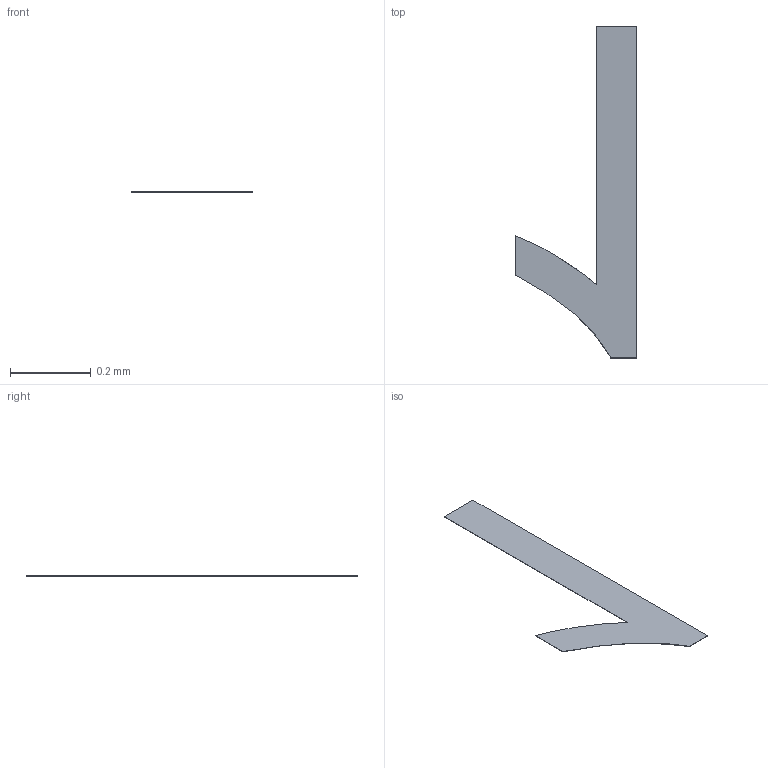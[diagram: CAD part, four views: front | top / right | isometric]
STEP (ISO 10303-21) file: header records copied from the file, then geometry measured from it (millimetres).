
FILE_DESCRIPTION(/* description */ ('STEP AP242 Edition 2','CAx-IF Rec.Pracs.---Representation and Presentation of Product Manufacturing Information (PMI)---4.0---2014-10-13','CAx-IF Rec.Pracs.---3D Tessellated Geometry---0.4---2014-09-14','2;1','CAx-IF Rec.Pracs.---User Defined Attributes---1.5---2016-08-15'),/* implementation_level */ '2;1');
FILE_NAME(/* name */ 'Drone Layout - Surface 360',/* time_stamp */ '2026-10-04T22:22:57Z',/* author */ (''),/* organization */ (''),/* preprocessor_version */ 'ST-DEVELOPER v20',/* originating_system */ 'ONSHAPE BY PTC INC, 1.221',/* authorisation */ ' ');
FILE_SCHEMA (('AP242_MANAGED_MODEL_BASED_3D_ENGINEERING_MIM_LF { 1 0 10303 442 3 1 4 }'));
Length unit declared in the file: metre
Products named in the file (1): VL53L0X:1__Body14
Bounding box: 0.3 x 0.82 x 0 mm (x, y, z)
Volume: 0 mm3; surface area: 0.2 mm2
Topology: 1 solids, 1 shells, 11 faces, 27 edges, 18 vertices
Faces by surface type: plane 7, bspline 3, cylinder 1
Entity records: 363 total; most frequent: CARTESIAN_POINT 105, ORIENTED_EDGE 54, DIRECTION 41, EDGE_CURVE 27, LINE 19, VECTOR 19, VERTEX_POINT 18, EDGE_LOOP 11
